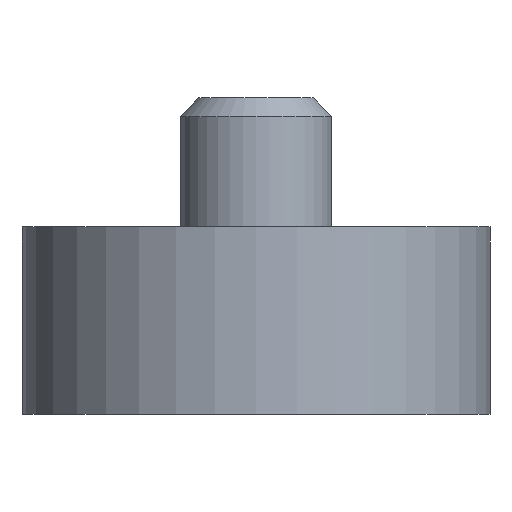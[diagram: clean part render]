
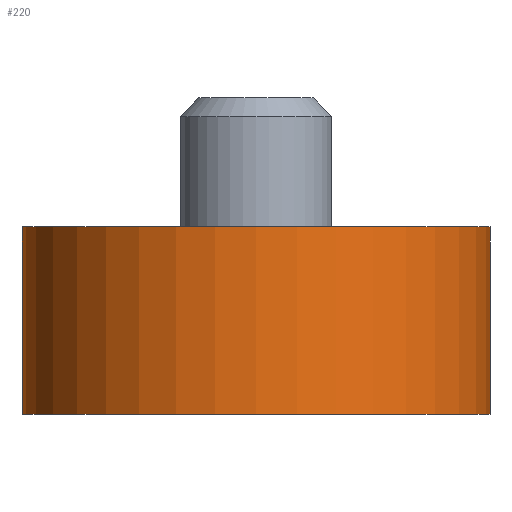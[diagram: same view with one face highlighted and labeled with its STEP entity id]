
A CAD part, front view. The second image highlights one B-rep face of the part: STEP entity #220.
In plain terms, the highlighted cylindrical face has radius 12.5 mm (diameter 25 mm), a partial arc.
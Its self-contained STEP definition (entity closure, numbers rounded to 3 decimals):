
#13=CIRCLE('',#248,12.5);
#14=CIRCLE('',#249,12.5);
#30=CYLINDRICAL_SURFACE('',#247,12.5);
#42=ORIENTED_EDGE('',*,*,#92,.F.);
#43=ORIENTED_EDGE('',*,*,#91,.F.);
#44=ORIENTED_EDGE('',*,*,#93,.T.);
#45=ORIENTED_EDGE('',*,*,#94,.T.);
#91=EDGE_CURVE('',#116,#113,#137,.T.);
#92=EDGE_CURVE('',#113,#117,#13,.T.);
#93=EDGE_CURVE('',#116,#118,#14,.T.);
#94=EDGE_CURVE('',#118,#117,#138,.T.);
#113=VERTEX_POINT('',#352);
#116=VERTEX_POINT('',#357);
#117=VERTEX_POINT('',#361);
#118=VERTEX_POINT('',#363);
#137=LINE('',#358,#145);
#138=LINE('',#364,#146);
#145=VECTOR('',#284,1000.);
#146=VECTOR('',#291,1000.);
#151=EDGE_LOOP('',(#42,#43,#44,#45));
#183=FACE_BOUND('',#151,.T.);
#220=ADVANCED_FACE('',(#183),#30,.T.);
#247=AXIS2_PLACEMENT_3D('',#359,#285,#286);
#248=AXIS2_PLACEMENT_3D('',#360,#287,#288);
#249=AXIS2_PLACEMENT_3D('',#362,#289,#290);
#284=DIRECTION('',(0.,0.,1.));
#285=DIRECTION('',(0.,0.,1.));
#286=DIRECTION('',(1.,0.,0.));
#287=DIRECTION('',(0.,0.,1.));
#288=DIRECTION('',(1.,0.,0.));
#289=DIRECTION('',(0.,0.,1.));
#290=DIRECTION('',(1.,0.,0.));
#291=DIRECTION('',(0.,0.,1.));
#352=CARTESIAN_POINT('',(-68.625,0.,79.25));
#357=CARTESIAN_POINT('',(-68.625,0.,69.25));
#358=CARTESIAN_POINT('',(-68.625,0.,69.25));
#359=CARTESIAN_POINT('',(-56.125,0.,69.25));
#360=CARTESIAN_POINT('',(-56.125,0.,79.25));
#361=CARTESIAN_POINT('',(-43.625,0.,79.25));
#362=CARTESIAN_POINT('',(-56.125,0.,69.25));
#363=CARTESIAN_POINT('',(-43.625,0.,69.25));
#364=CARTESIAN_POINT('',(-43.625,0.,69.25));
